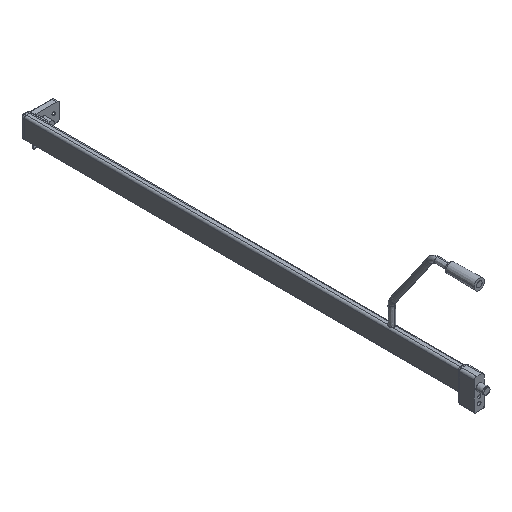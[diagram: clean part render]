
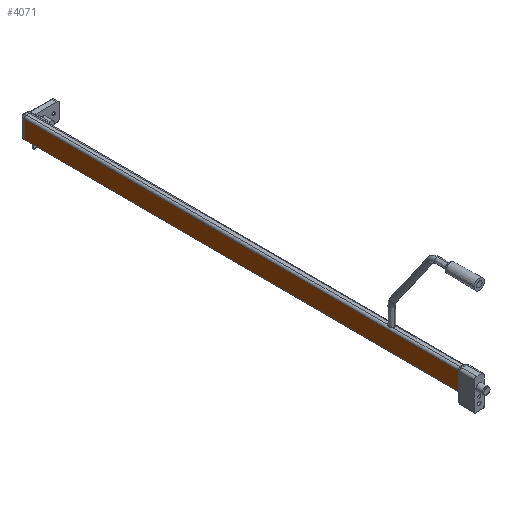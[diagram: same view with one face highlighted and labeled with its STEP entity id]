
A CAD part, isometric view. The second image highlights one B-rep face of the part: STEP entity #4071.
In plain terms, the highlighted planar face has unit normal (-1, 0, 0).
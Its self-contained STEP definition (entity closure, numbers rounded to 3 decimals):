
#1186 = LINE ( 'NONE', #5309, #1189 ) ;
#1189 = VECTOR ( 'NONE', #5310, 1000. ) ;
#1191 = LINE ( 'NONE', #5311, #1193 ) ;
#1193 = VECTOR ( 'NONE', #5312, 1000. ) ;
#1204 = LINE ( 'NONE', #5319, #1206 ) ;
#1206 = VECTOR ( 'NONE', #5320, 1000. ) ;
#1248 = LINE ( 'NONE', #2087, #1250 ) ;
#1250 = VECTOR ( 'NONE', #2088, 1000. ) ;
#1577 = FACE_OUTER_BOUND ( 'NONE', #5069, .T. ) ;
#2087 = CARTESIAN_POINT ( 'NONE',  ( -5.25, 684.222, -13.708 ) ) ;
#2088 = DIRECTION ( 'NONE',  ( 0., -1., -0.003 ) ) ;
#2150 = VERTEX_POINT ( 'NONE', #2340 ) ;
#2181 = VERTEX_POINT ( 'NONE', #5195 ) ;
#2299 = VERTEX_POINT ( 'NONE', #5249 ) ;
#2306 = VERTEX_POINT ( 'NONE', #5256 ) ;
#2340 = CARTESIAN_POINT ( 'NONE',  ( -5.25, 650.4, 12.2 ) ) ;
#2534 = EDGE_CURVE ( 'NONE', #2181, #2306, #1186, .T. ) ;
#2535 = EDGE_CURVE ( 'NONE', #2150, #2299, #1191, .T. ) ;
#2538 = EDGE_CURVE ( 'NONE', #2150, #2181, #1204, .T. ) ;
#2550 = EDGE_CURVE ( 'NONE', #2299, #2306, #1248, .T. ) ;
#2770 = AXIS2_PLACEMENT_3D ( 'NONE', #3094, #3095, #3096 ) ;
#3093 = PLANE ( 'NONE',  #2770 ) ;
#3094 = CARTESIAN_POINT ( 'NONE',  ( -5.25, 684.222, -13.708 ) ) ;
#3095 = DIRECTION ( 'NONE',  ( 1., 0., 0. ) ) ;
#3096 = DIRECTION ( 'NONE',  ( 0., 0., -1. ) ) ;
#4071 = ADVANCED_FACE ( 'NONE', ( #1577 ), #3093, .F. ) ;
#5069 = EDGE_LOOP ( 'NONE', ( #5140, #5141, #5142, #5143 ) ) ;
#5140 = ORIENTED_EDGE ( 'NONE', *, *, #2535, .T. ) ;
#5141 = ORIENTED_EDGE ( 'NONE', *, *, #2550, .T. ) ;
#5142 = ORIENTED_EDGE ( 'NONE', *, *, #2534, .F. ) ;
#5143 = ORIENTED_EDGE ( 'NONE', *, *, #2538, .F. ) ;
#5195 = CARTESIAN_POINT ( 'NONE',  ( -5.25, 25., 10.5 ) ) ;
#5249 = CARTESIAN_POINT ( 'NONE',  ( -5.25, 650.4, -13.8 ) ) ;
#5256 = CARTESIAN_POINT ( 'NONE',  ( -5.25, 25., -15.5 ) ) ;
#5309 = CARTESIAN_POINT ( 'NONE',  ( -5.25, 25., 15. ) ) ;
#5310 = DIRECTION ( 'NONE',  ( 0., 0., -1. ) ) ;
#5311 = CARTESIAN_POINT ( 'NONE',  ( -5.25, 650.4, -13.708 ) ) ;
#5312 = DIRECTION ( 'NONE',  ( 0., 0., -1. ) ) ;
#5319 = CARTESIAN_POINT ( 'NONE',  ( -5.25, 684.152, 12.292 ) ) ;
#5320 = DIRECTION ( 'NONE',  ( 0., -1., -0.003 ) ) ;
